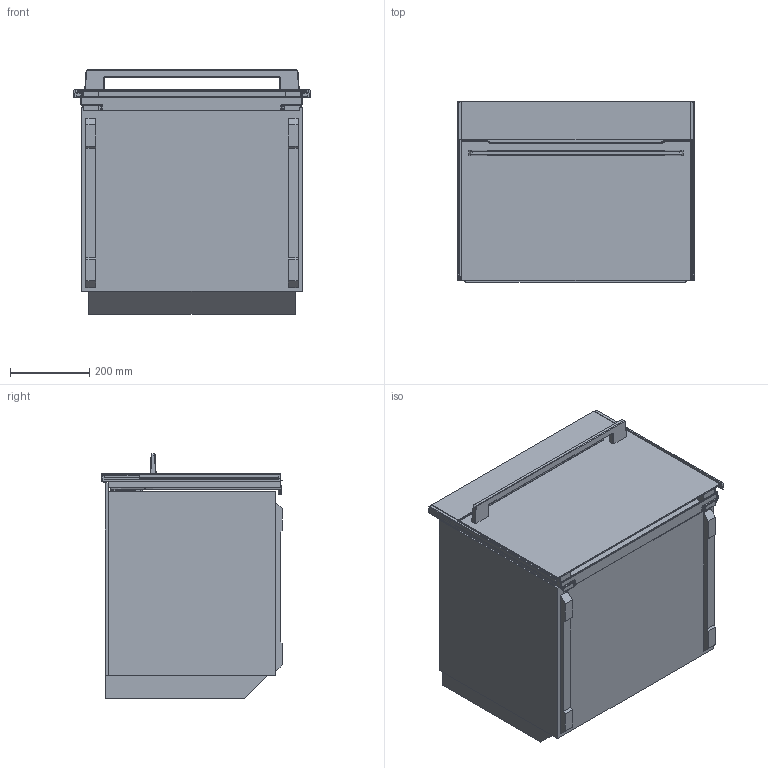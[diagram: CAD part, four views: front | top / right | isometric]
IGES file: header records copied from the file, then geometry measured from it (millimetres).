
Start section: SolidWorks IGES file using analytic representation for surfaces
Global section: file name: E:\3D za kuhinjaše\3D za kuhinjaše-ASKO\507875_OCM8478G\507875_OCM8478G\507875_OCM8478G.IGS; native system: SolidWorks 2016; preprocessor: SolidWorks 2016; author: kristijan.lamesic; date: 170914.121728; units: millimetre
Bounding box: 597 x 455.07 x 616 mm (x, y, z)
Surface area: 3053903.8 mm2 (no closed solid volume)
Topology: 0 solids, 0 shells, 496 faces, 4051 edges, 4047 vertices
Faces by surface type: bspline 336, revolution 160
